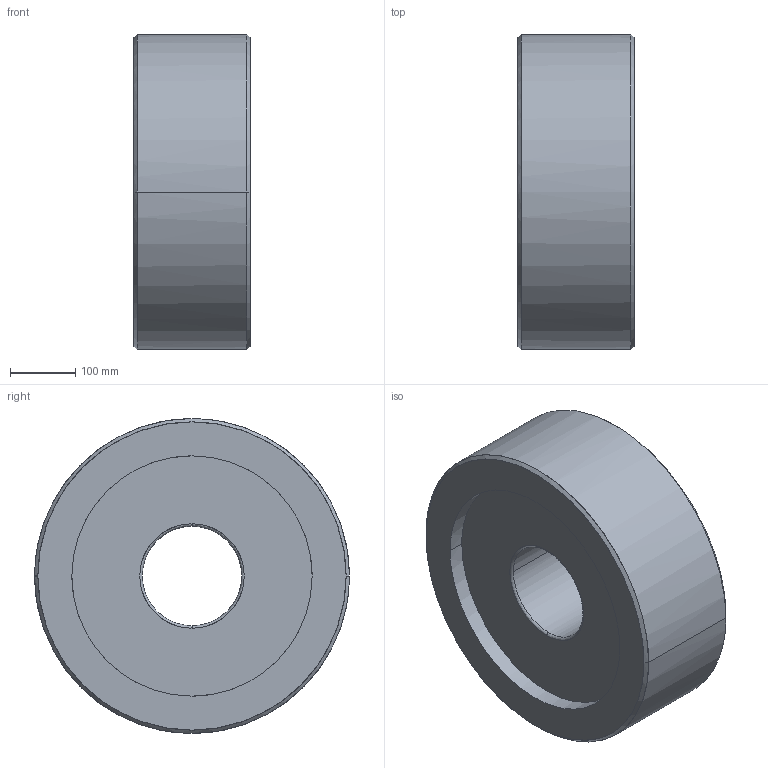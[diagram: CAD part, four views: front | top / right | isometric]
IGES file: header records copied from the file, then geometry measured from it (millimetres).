
Global section: native system: Kubotek KeyCreator; preprocessor: KCM Version 1.1.1442.0; author: KeyCreator User; organization: Self; date: 20170713.044550; units: inch
Bounding box: 177.8 x 482.6 x 482.6 mm (x, y, z)
Surface area: 708114.6 mm2 (no closed solid volume)
Topology: 0 solids, 0 shells, 20 faces, 128 edges, 128 vertices
Faces by surface type: bspline 20
